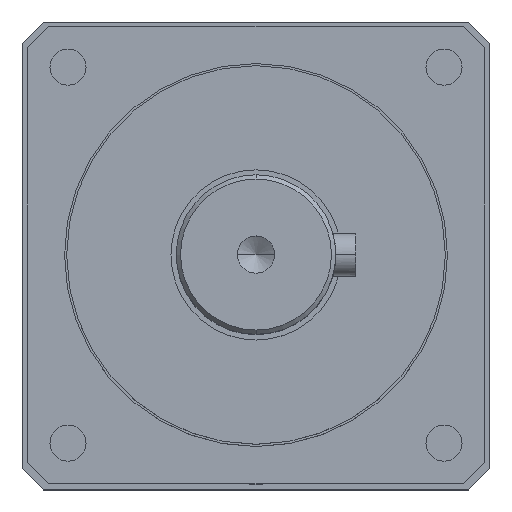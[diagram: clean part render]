
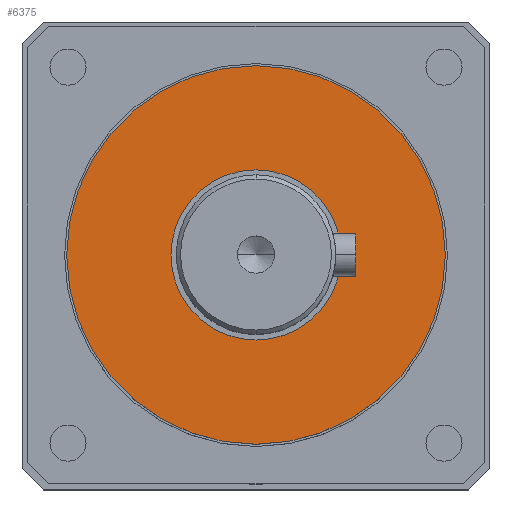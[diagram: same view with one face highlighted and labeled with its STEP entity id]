
A CAD part, top view. The second image highlights one B-rep face of the part: STEP entity #6375.
In plain terms, the highlighted planar face has unit normal (0, 0, 1).
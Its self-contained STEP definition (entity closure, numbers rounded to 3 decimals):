
#192 = CARTESIAN_POINT ( 'NONE',  ( -40., 0., 11. ) ) ;
#1103 = AXIS2_PLACEMENT_3D ( 'NONE', #17809, #2980, #20337 ) ;
#2422 = FACE_OUTER_BOUND ( 'NONE', #18589, .T. ) ;
#2980 = DIRECTION ( 'NONE',  ( 0., 0., -1. ) ) ;
#3893 = CARTESIAN_POINT ( 'NONE',  ( 0., 0., 11. ) ) ;
#5573 = PLANE ( 'NONE',  #29385 ) ;
#6088 = DIRECTION ( 'NONE',  ( 0., 0., -1. ) ) ;
#6375 = ADVANCED_FACE ( 'NONE', ( #8306, #2422 ), #5573, .T. ) ;
#6394 = DIRECTION ( 'NONE',  ( 1., 0., 0. ) ) ;
#7460 = ORIENTED_EDGE ( 'NONE', *, *, #20613, .T. ) ;
#7559 = AXIS2_PLACEMENT_3D ( 'NONE', #3893, #21228, #6394 ) ;
#7660 = CIRCLE ( 'NONE', #30790, 40. ) ;
#8306 = FACE_BOUND ( 'NONE', #14276, .T. ) ;
#10535 = DIRECTION ( 'NONE',  ( 1., 0., 0. ) ) ;
#11915 = CARTESIAN_POINT ( 'NONE',  ( 0., 0., 11. ) ) ;
#13757 = ORIENTED_EDGE ( 'NONE', *, *, #15434, .F. ) ;
#14276 = EDGE_LOOP ( 'NONE', ( #7460, #25329 ) ) ;
#14370 = DIRECTION ( 'NONE',  ( -1., 0., 0. ) ) ;
#15120 = EDGE_CURVE ( 'NONE', #29759, #20818, #23335, .T. ) ;
#15383 = VERTEX_POINT ( 'NONE', #24792 ) ;
#15434 = EDGE_CURVE ( 'NONE', #15383, #19731, #30609, .T. ) ;
#16220 = AXIS2_PLACEMENT_3D ( 'NONE', #20925, #6088, #23404 ) ;
#17809 = CARTESIAN_POINT ( 'NONE',  ( 0., 0., 11. ) ) ;
#18589 = EDGE_LOOP ( 'NONE', ( #26315, #13757 ) ) ;
#19109 = EDGE_CURVE ( 'NONE', #19731, #15383, #23259, .T. ) ;
#19731 = VERTEX_POINT ( 'NONE', #28424 ) ;
#19894 = CARTESIAN_POINT ( 'NONE',  ( 40., 0., 11. ) ) ;
#20337 = DIRECTION ( 'NONE',  ( 1., 0., 0. ) ) ;
#20613 = EDGE_CURVE ( 'NONE', #20818, #29759, #7660, .T. ) ;
#20818 = VERTEX_POINT ( 'NONE', #192 ) ;
#20925 = CARTESIAN_POINT ( 'NONE',  ( 0., 0., 11. ) ) ;
#21228 = DIRECTION ( 'NONE',  ( 0., 0., -1. ) ) ;
#22868 = CARTESIAN_POINT ( 'NONE',  ( 0., 0., 11. ) ) ;
#23259 = CIRCLE ( 'NONE', #7559, 89. ) ;
#23335 = CIRCLE ( 'NONE', #16220, 40. ) ;
#23404 = DIRECTION ( 'NONE',  ( -1., 0., 0. ) ) ;
#24792 = CARTESIAN_POINT ( 'NONE',  ( -89., 0., 11. ) ) ;
#25329 = ORIENTED_EDGE ( 'NONE', *, *, #15120, .T. ) ;
#25333 = DIRECTION ( 'NONE',  ( 0., 0., 1. ) ) ;
#26315 = ORIENTED_EDGE ( 'NONE', *, *, #19109, .F. ) ;
#28424 = CARTESIAN_POINT ( 'NONE',  ( 89., 0., 11. ) ) ;
#29233 = DIRECTION ( 'NONE',  ( 0., 0., -1. ) ) ;
#29385 = AXIS2_PLACEMENT_3D ( 'NONE', #22868, #25333, #10535 ) ;
#29759 = VERTEX_POINT ( 'NONE', #19894 ) ;
#30609 = CIRCLE ( 'NONE', #1103, 89. ) ;
#30790 = AXIS2_PLACEMENT_3D ( 'NONE', #11915, #29233, #14370 ) ;
